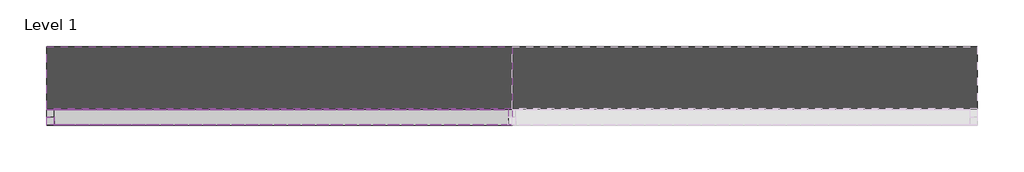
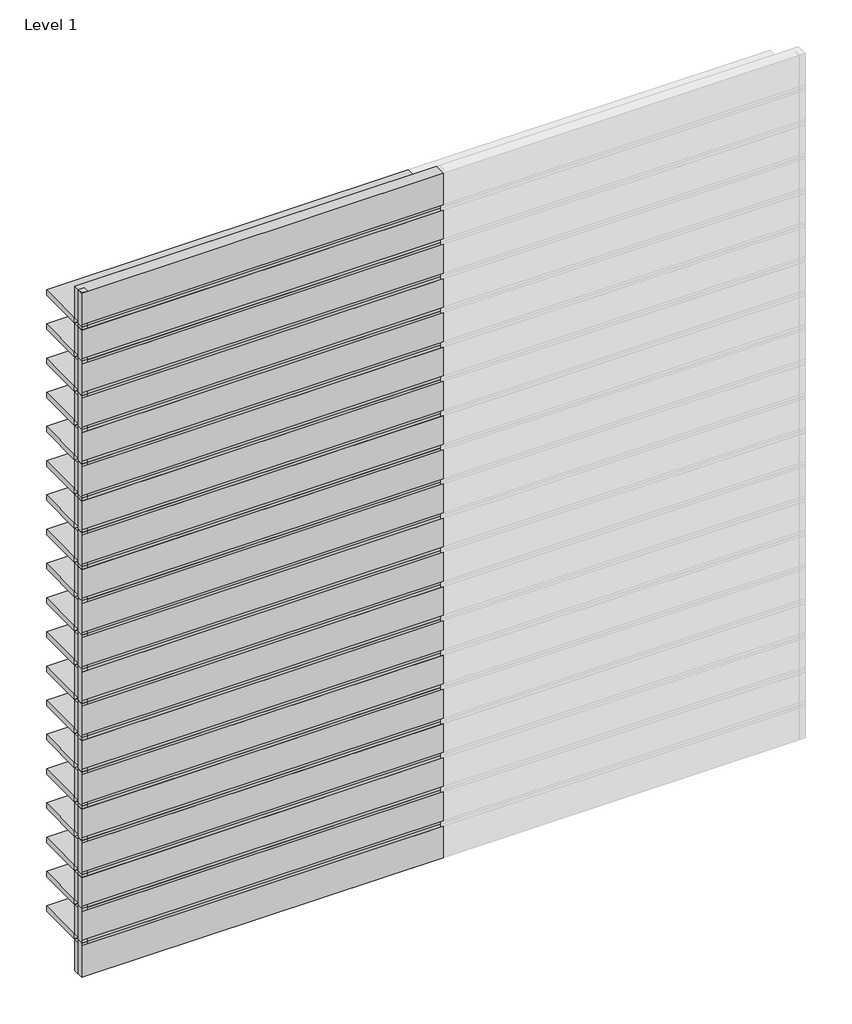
# One storey, part 1 of 2: 49 members, 40 plates.
"""IFC4 building model written with IfcOpenShell, lengths in millimetres."""

import ifcopenshell
import ifcopenshell.guid

model = None  # the IFC model being written
_history = None  # IfcOwnerHistory: only IFC2X3 demands one
_inside = {}  # id of a spatial element -> (the spatial element, [elements in it])
_under = {}  # id of a project, library or spatial element -> (it, [spatial elements below it])
_declared = {}  # id of a project -> (the project, [libraries it declares])
_typed = {}  # id of a type object -> (the type object, [elements of that type])
_made_of = {}  # id of a material, layer set ... -> (it, [elements and type objects made of it])


def new_model(schema):
    """Start an empty IFC model of exactly this schema.

    Asked for "IFC4X3", IfcOpenShell would pick the latest addendum, in which some entities
    have other attributes; the version numbers below select the first issue.
    IFC2X3 requires an IfcOwnerHistory on every rooted entity: one is made here for all.
    """
    global model, _history
    if schema == "IFC4X3":
        model = ifcopenshell.file(schema_version=(4, 3, 0, 0))
    else:
        model = ifcopenshell.file(schema=schema)
    _inside.clear()
    _under.clear()
    _declared.clear()
    _typed.clear()
    _made_of.clear()
    _history = None
    if model.schema == "IFC2X3":
        org = make("IfcOrganization", Name="unknown")
        user = make(
            "IfcPersonAndOrganization",
            ThePerson=make("IfcPerson", FamilyName="unknown"),
            TheOrganization=org,
        )
        app = make(
            "IfcApplication",
            ApplicationDeveloper=org,
            Version="unknown",
            ApplicationFullName="unknown",
            ApplicationIdentifier="unknown",
        )
        _history = make(
            "IfcOwnerHistory",
            OwningUser=user,
            OwningApplication=app,
            ChangeAction="ADDED",
            CreationDate=0,
        )
    return model


def make(cls, **values):
    """One entity of the class cls with the attributes given. An attribute that is None is left unset."""
    return model.create_entity(
        cls, **{name: value for name, value in values.items() if value is not None}
    )


def rooted(cls, **values):
    """An entity with a GlobalId (a new one), such as an element, a storey or a relation."""
    return make(cls, GlobalId=ifcopenshell.guid.new(), OwnerHistory=_history, **values)


def si_unit(unit_type, name, prefix=None):
    """IfcSIUnit, for example si_unit("LENGTHUNIT", "METRE", prefix="MILLI")."""
    return make("IfcSIUnit", UnitType=unit_type, Prefix=prefix, Name=name)


def assignment(units):
    """IfcUnitAssignment: the units of a project."""
    return None if units is None else make("IfcUnitAssignment", Units=units)


def point(xyz):
    """IfcCartesianPoint."""
    return None if xyz is None else make("IfcCartesianPoint", Coordinates=xyz)


def direction(xyz):
    """IfcDirection."""
    return None if xyz is None else make("IfcDirection", DirectionRatios=xyz)


def frame(location, z_axis=None, x_axis=None):
    """IfcAxis2Placement3D, a coordinate frame: its origin and axes. An axis left out is left unset."""
    return make(
        "IfcAxis2Placement3D",
        Location=point(location),
        Axis=direction(z_axis),
        RefDirection=direction(x_axis),
    )


def origin():
    """The frame at (0, 0, 0) with its axes left unset."""
    return frame((0.0, 0.0, 0.0))


def origin_with_axes():
    """The frame at (0, 0, 0) with the z axis (0, 0, 1) and the x axis (1, 0, 0) written out."""
    return frame((0.0, 0.0, 0.0), z_axis=(0.0, 0.0, 1.0), x_axis=(1.0, 0.0, 0.0))


def place(relative_to, where):
    """IfcLocalPlacement: puts the frame where relative to a parent placement (None: the world)."""
    return make(
        "IfcLocalPlacement", PlacementRelTo=relative_to, RelativePlacement=where
    )


def context(
    kind, dimensions, precision=None, world=None, true_north=None, identifier=None
):
    """IfcGeometricRepresentationContext, for example the 3D "Model" context."""
    return make(
        "IfcGeometricRepresentationContext",
        ContextIdentifier=identifier,
        ContextType=kind,
        CoordinateSpaceDimension=dimensions,
        Precision=precision,
        WorldCoordinateSystem=world,
        TrueNorth=true_north,
    )


def project(units=None, contexts=None):
    """IfcProject with its units and contexts."""
    return rooted(
        "IfcProject",
        Name="project",
        RepresentationContexts=contexts,
        UnitsInContext=assignment(units),
    )


def spatial(cls, under=None, at=None, **own):
    """A site, building, storey or space (cls), placed at a placement, below another one or the project."""
    s = rooted(cls, ObjectPlacement=at, **own)
    if under is not None:
        _under.setdefault(under.id(), (under, []))[1].append(s)
    return s


def polyline(points):
    """IfcPolyline through the points."""
    return make("IfcPolyline", Points=[point(p) for p in points])


def outline(outer, holes=None, kind="AREA"):
    """IfcArbitraryClosedProfileDef: a profile drawn as a closed curve; with holes, ...WithVoids."""
    if holes is None:
        return make("IfcArbitraryClosedProfileDef", ProfileType=kind, OuterCurve=outer)
    return make(
        "IfcArbitraryProfileDefWithVoids",
        ProfileType=kind,
        OuterCurve=outer,
        InnerCurves=holes,
    )


def extrude(swept, where, along, depth):
    """IfcExtrudedAreaSolid: the profile swept, set in the frame where, extruded along a direction by depth."""
    return make(
        "IfcExtrudedAreaSolid",
        SweptArea=swept,
        Position=where,
        ExtrudedDirection=direction(along),
        Depth=depth,
    )


def shape(context_of_items, identifier, shape_type, items):
    """IfcShapeRepresentation: the items that make up one representation, for example the "Body"."""
    return make(
        "IfcShapeRepresentation",
        ContextOfItems=context_of_items,
        RepresentationIdentifier=identifier,
        RepresentationType=shape_type,
        Items=items,
    )


def source(mapping_origin, context_of_items, identifier, shape_type, items):
    """IfcRepresentationMap: a shape defined once, which mapped items show again and again."""
    return make(
        "IfcRepresentationMap",
        MappingOrigin=mapping_origin,
        MappedRepresentation=shape(context_of_items, identifier, shape_type, items),
    )


def transform(
    local_origin,
    x_axis=None,
    y_axis=None,
    z_axis=None,
    scale=None,
    scale2=None,
    scale3=None,
    uniform=True,
):
    """IfcCartesianTransformationOperator3D, or its non-uniform kind. x_axis, y_axis, z_axis: its Axis1, 2, 3."""
    if uniform:
        return make(
            "IfcCartesianTransformationOperator3D",
            Axis1=direction(x_axis),
            Axis2=direction(y_axis),
            LocalOrigin=point(local_origin),
            Scale=scale,
            Axis3=direction(z_axis),
        )
    return make(
        "IfcCartesianTransformationOperator3DnonUniform",
        Axis1=direction(x_axis),
        Axis2=direction(y_axis),
        LocalOrigin=point(local_origin),
        Scale=scale,
        Axis3=direction(z_axis),
        Scale2=scale2,
        Scale3=scale3,
    )


def mapped(mapping_source, mapping_target):
    """IfcMappedItem: shows the shape of a source again, moved by a transform."""
    return make(
        "IfcMappedItem", MappingSource=mapping_source, MappingTarget=mapping_target
    )


def made_of(thing, what):
    """Note that an element or type object is made of a material, layer set ...; save() writes the relation."""
    if what is not None:
        _made_of.setdefault(what.id(), (what, []))[1].append(thing)
    return thing


def element(
    cls,
    number,
    at=None,
    inside=None,
    cuts=None,
    type_object=None,
    material=None,
    context=None,
    identifier="Body",
    shape_type=None,
    held_by="IfcProductDefinitionShape",
    body=None,
    shapes=None,
    **own,
):
    """One element of the class cls, such as IfcWall. Its Tag is "e" and its number.

    at: its placement. inside: the storey or other place that contains it. cuts: it is an
    opening in that element (IfcRelVoidsElement). A single representation is given by context,
    identifier, shape_type and body (its items); several are given by shapes. held_by: the class
    of the entity that holds the representations. save() writes the other relations.
    """
    e = rooted(cls, Tag="e%d" % number, ObjectPlacement=at, **own)
    if body is not None:
        shapes = [shape(context, identifier, shape_type, body)]
    if shapes is not None:
        e.Representation = make(held_by, Representations=shapes)
    if inside is not None:
        _inside.setdefault(inside.id(), (inside, []))[1].append(e)
    if cuts is not None:
        rooted(
            "IfcRelVoidsElement", RelatingBuildingElement=cuts, RelatedOpeningElement=e
        )
    if type_object is not None:
        _typed.setdefault(type_object.id(), (type_object, []))[1].append(e)
    return made_of(e, material)


def aggregate(whole, parts):
    """IfcRelAggregates: a whole, such as a stair, and the parts it consists of."""
    return rooted("IfcRelAggregates", RelatingObject=whole, RelatedObjects=parts)


def save(model, path):
    """Write the relations noted so far, then the file.

    IfcRelAggregates (storeys below a building ...), IfcRelContainedInSpatialStructure (elements
    in a storey), IfcRelDefinesByType, IfcRelAssociatesMaterial and IfcRelDeclares: one each for
    every whole, place, type object, material and project.
    """
    for whole, parts in _under.values():
        aggregate(whole, parts)
    for where, things in _inside.values():
        rooted(
            "IfcRelContainedInSpatialStructure",
            RelatedElements=things,
            RelatingStructure=where,
        )
    for kind, things in _typed.values():
        rooted("IfcRelDefinesByType", RelatedObjects=things, RelatingType=kind)
    for what, things in _made_of.values():
        rooted("IfcRelAssociatesMaterial", RelatedObjects=things, RelatingMaterial=what)
    for by, libraries in _declared.values():
        rooted("IfcRelDeclares", RelatingContext=by, RelatedDefinitions=libraries)
    model.write(path)


def rectangular_mullion_e1254653(model_context):
    return source(origin(), model_context, "Body", "SweptSolid", [
        extrude(outline(polyline([(-24.0, 55.0), (-24.0, 455.0), (24.0, 455.0), (24.0, 55.0), (-24.0, 55.0)])), frame((0.0, 0.0, -3000.0), z_axis=(0.0, 0.0, 1.0), x_axis=(1.0, 0.0, 0.0)), (0.0, 0.0, 1.0), 3000.0),
    ])


def rectangular_mullion_bcb65166(model_context):
    return source(origin(), model_context, "Body", "SweptSolid", [
        extrude(outline(polyline([(0.0, 1.0), (0.0, -49.0), (-50.0, -49.0), (-50.0, 1.0), (0.0, 1.0)])), frame((0.0, 0.0, -300.0), z_axis=(0.0, 0.0, 1.0), x_axis=(1.0, 0.0, 0.0)), (0.0, 0.0, 1.0), 300.0),
    ])


def empty_system_panel_empty_3beb369f(model_context):
    return source(origin(), model_context, "Body", "SweptSolid", [
        extrude(outline(polyline([(1500.0, -50.0), (-1500.0, -50.0), (-1500.0, 50.0), (1500.0, 50.0), (1500.0, -50.0)])), origin_with_axes(), (0.0, 0.0, 1.0), 276.0),
    ])


def empty_system_panel_empty_3b3bfbe1(model_context):
    return source(origin(), model_context, "Body", "SweptSolid", [
        extrude(outline(polyline([(1500.0, -50.0), (-1500.0, -50.0), (-1500.0, 50.0), (1500.0, 50.0), (1500.0, -50.0)])), origin_with_axes(), (0.0, 0.0, 1.0), 252.0),
    ])


def empty_system_panel_empty_080f249c(model_context):
    return source(origin(), model_context, "Body", "SweptSolid", [
        extrude(outline(polyline([(1462.5, -50.0), (-1462.5, -50.0), (-1462.5, 50.0), (1462.5, 50.0), (1462.5, -50.0)])), origin_with_axes(), (0.0, 0.0, 1.0), 300.0),
    ])


model = new_model("IFC4")

# Units and contexts
model_context = context("Model", 3, world=origin())
ifc_project = project(units=[si_unit("LENGTHUNIT", "METRE", prefix="MILLI")], contexts=[model_context])

# Site, building, storey
site = spatial("IfcSite", under=ifc_project)
building = spatial("IfcBuilding", under=site)
storey = spatial("IfcBuildingStorey", under=building, Name="Level 1", Elevation=0.0)

# Members
placement = place(None, origin())
rectangular_mullion_shape = rectangular_mullion_e1254653(model_context)
element("IfcMember", 1, ObjectType="Rectangular Mullion : RSen_21_CWM_blade - cubic 400 - 0°_gen_duco projects", at=placement, inside=storey, context=model_context, shape_type="MappedRepresentation", body=[
    mapped(rectangular_mullion_shape, transform((3000.0, 3000.0, 300.0), x_axis=(0.0, 0.0, 1.0), y_axis=(0.0, 1.0, 0.0), z_axis=(-1.0, 0.0, 0.0))),
])
element("IfcMember", 2, ObjectType="Rectangular Mullion : RSen_21_CWM_blade - cubic 400 - 0°_gen_duco projects", at=placement, inside=storey, context=model_context, shape_type="MappedRepresentation", body=[
    mapped(rectangular_mullion_shape, transform((3000.0, 3000.0, 600.0), x_axis=(0.0, 0.0, 1.0), y_axis=(0.0, 1.0, 0.0), z_axis=(-1.0, 0.0, 0.0))),
])
element("IfcMember", 3, ObjectType="Rectangular Mullion : RSen_21_CWM_blade - cubic 400 - 0°_gen_duco projects", at=placement, inside=storey, context=model_context, shape_type="MappedRepresentation", body=[
    mapped(rectangular_mullion_shape, transform((3000.0, 3000.0, 900.0), x_axis=(0.0, 0.0, 1.0), y_axis=(0.0, 1.0, 0.0), z_axis=(-1.0, 0.0, 0.0))),
])
element("IfcMember", 4, ObjectType="Rectangular Mullion : RSen_21_CWM_blade - cubic 400 - 0°_gen_duco projects", at=placement, inside=storey, context=model_context, shape_type="MappedRepresentation", body=[
    mapped(rectangular_mullion_shape, transform((3000.0, 3000.0, 1200.0), x_axis=(0.0, 0.0, 1.0), y_axis=(0.0, 1.0, 0.0), z_axis=(-1.0, 0.0, 0.0))),
])
element("IfcMember", 5, ObjectType="Rectangular Mullion : RSen_21_CWM_blade - cubic 400 - 0°_gen_duco projects", at=placement, inside=storey, context=model_context, shape_type="MappedRepresentation", body=[
    mapped(rectangular_mullion_shape, transform((3000.0, 3000.0, 1500.0), x_axis=(0.0, 0.0, 1.0), y_axis=(0.0, 1.0, 0.0), z_axis=(-1.0, 0.0, 0.0))),
])
element("IfcMember", 6, ObjectType="Rectangular Mullion : RSen_21_CWM_blade - cubic 400 - 0°_gen_duco projects", at=placement, inside=storey, context=model_context, shape_type="MappedRepresentation", body=[
    mapped(rectangular_mullion_shape, transform((3000.0, 3000.0, 1800.0), x_axis=(0.0, 0.0, 1.0), y_axis=(0.0, 1.0, 0.0), z_axis=(-1.0, 0.0, 0.0))),
])
element("IfcMember", 7, ObjectType="Rectangular Mullion : RSen_21_CWM_blade - cubic 400 - 0°_gen_duco projects", at=placement, inside=storey, context=model_context, shape_type="MappedRepresentation", body=[
    mapped(rectangular_mullion_shape, transform((3000.0, 3000.0, 2100.0), x_axis=(0.0, 0.0, 1.0), y_axis=(0.0, 1.0, 0.0), z_axis=(-1.0, 0.0, 0.0))),
])
element("IfcMember", 8, ObjectType="Rectangular Mullion : RSen_21_CWM_blade - cubic 400 - 0°_gen_duco projects", at=placement, inside=storey, context=model_context, shape_type="MappedRepresentation", body=[
    mapped(rectangular_mullion_shape, transform((3000.0, 3000.0, 2400.0), x_axis=(0.0, 0.0, 1.0), y_axis=(0.0, 1.0, 0.0), z_axis=(-1.0, 0.0, 0.0))),
])
element("IfcMember", 9, ObjectType="Rectangular Mullion : RSen_21_CWM_blade - cubic 400 - 0°_gen_duco projects", at=placement, inside=storey, context=model_context, shape_type="MappedRepresentation", body=[
    mapped(rectangular_mullion_shape, transform((3000.0, 3000.0, 2700.0), x_axis=(0.0, 0.0, 1.0), y_axis=(0.0, 1.0, 0.0), z_axis=(-1.0, 0.0, 0.0))),
])
element("IfcMember", 10, ObjectType="Rectangular Mullion : RSen_21_CWM_blade - cubic 400 - 0°_gen_duco projects", at=placement, inside=storey, context=model_context, shape_type="MappedRepresentation", body=[
    mapped(rectangular_mullion_shape, transform((3000.0, 3000.0, 3000.0), x_axis=(0.0, 0.0, 1.0), y_axis=(0.0, 1.0, 0.0), z_axis=(-1.0, 0.0, 0.0))),
])
element("IfcMember", 11, ObjectType="Rectangular Mullion : RSen_21_CWM_blade - cubic 400 - 0°_gen_duco projects", at=placement, inside=storey, context=model_context, shape_type="MappedRepresentation", body=[
    mapped(rectangular_mullion_shape, transform((0.0, 3000.0, 300.0), x_axis=(0.0, 0.0, 1.0), y_axis=(0.0, 1.0, 0.0), z_axis=(-1.0, 0.0, 0.0))),
])
element("IfcMember", 12, ObjectType="Rectangular Mullion : RSen_21_CWM_blade - cubic 400 - 0°_gen_duco projects", at=placement, inside=storey, context=model_context, shape_type="MappedRepresentation", body=[
    mapped(rectangular_mullion_shape, transform((0.0, 3000.0, 600.0), x_axis=(0.0, 0.0, 1.0), y_axis=(0.0, 1.0, 0.0), z_axis=(-1.0, 0.0, 0.0))),
])
element("IfcMember", 13, ObjectType="Rectangular Mullion : RSen_21_CWM_blade - cubic 400 - 0°_gen_duco projects", at=placement, inside=storey, context=model_context, shape_type="MappedRepresentation", body=[
    mapped(rectangular_mullion_shape, transform((0.0, 3000.0, 900.0), x_axis=(0.0, 0.0, 1.0), y_axis=(0.0, 1.0, 0.0), z_axis=(-1.0, 0.0, 0.0))),
])
element("IfcMember", 14, ObjectType="Rectangular Mullion : RSen_21_CWM_blade - cubic 400 - 0°_gen_duco projects", at=placement, inside=storey, context=model_context, shape_type="MappedRepresentation", body=[
    mapped(rectangular_mullion_shape, transform((0.0, 3000.0, 1200.0), x_axis=(0.0, 0.0, 1.0), y_axis=(0.0, 1.0, 0.0), z_axis=(-1.0, 0.0, 0.0))),
])
element("IfcMember", 15, ObjectType="Rectangular Mullion : RSen_21_CWM_blade - cubic 400 - 0°_gen_duco projects", at=placement, inside=storey, context=model_context, shape_type="MappedRepresentation", body=[
    mapped(rectangular_mullion_shape, transform((0.0, 3000.0, 1500.0), x_axis=(0.0, 0.0, 1.0), y_axis=(0.0, 1.0, 0.0), z_axis=(-1.0, 0.0, 0.0))),
])
element("IfcMember", 16, ObjectType="Rectangular Mullion : RSen_21_CWM_blade - cubic 400 - 0°_gen_duco projects", at=placement, inside=storey, context=model_context, shape_type="MappedRepresentation", body=[
    mapped(rectangular_mullion_shape, transform((0.0, 3000.0, 1800.0), x_axis=(0.0, 0.0, 1.0), y_axis=(0.0, 1.0, 0.0), z_axis=(-1.0, 0.0, 0.0))),
])
element("IfcMember", 17, ObjectType="Rectangular Mullion : RSen_21_CWM_blade - cubic 400 - 0°_gen_duco projects", at=placement, inside=storey, context=model_context, shape_type="MappedRepresentation", body=[
    mapped(rectangular_mullion_shape, transform((0.0, 3000.0, 2100.0), x_axis=(0.0, 0.0, 1.0), y_axis=(0.0, 1.0, 0.0), z_axis=(-1.0, 0.0, 0.0))),
])
element("IfcMember", 18, ObjectType="Rectangular Mullion : RSen_21_CWM_blade - cubic 400 - 0°_gen_duco projects", at=placement, inside=storey, context=model_context, shape_type="MappedRepresentation", body=[
    mapped(rectangular_mullion_shape, transform((0.0, 3000.0, 2400.0), x_axis=(0.0, 0.0, 1.0), y_axis=(0.0, 1.0, 0.0), z_axis=(-1.0, 0.0, 0.0))),
])
element("IfcMember", 19, ObjectType="Rectangular Mullion : RSen_21_CWM_blade - cubic 400 - 0°_gen_duco projects", at=placement, inside=storey, context=model_context, shape_type="MappedRepresentation", body=[
    mapped(rectangular_mullion_shape, transform((0.0, 3000.0, 2700.0), x_axis=(0.0, 0.0, 1.0), y_axis=(0.0, 1.0, 0.0), z_axis=(-1.0, 0.0, 0.0))),
])
element("IfcMember", 20, ObjectType="Rectangular Mullion : RSen_21_CWM_blade - cubic 400 - 0°_gen_duco projects", at=placement, inside=storey, context=model_context, shape_type="MappedRepresentation", body=[
    mapped(rectangular_mullion_shape, transform((0.0, 3000.0, 3000.0), x_axis=(0.0, 0.0, 1.0), y_axis=(0.0, 1.0, 0.0), z_axis=(-1.0, 0.0, 0.0))),
])
element("IfcMember", 21, ObjectType="Rectangular Mullion : RSen_21_CWM_blade - cubic 400 - 0°_gen_duco projects", at=placement, inside=storey, context=model_context, shape_type="MappedRepresentation", body=[
    mapped(rectangular_mullion_shape, transform((0.0, 3000.0, 3300.0), x_axis=(0.0, 0.0, 1.0), y_axis=(0.0, 1.0, 0.0), z_axis=(-1.0, 0.0, 0.0))),
])
element("IfcMember", 22, ObjectType="Rectangular Mullion : RSen_21_CWM_blade - cubic 400 - 0°_gen_duco projects", at=placement, inside=storey, context=model_context, shape_type="MappedRepresentation", body=[
    mapped(rectangular_mullion_shape, transform((0.0, 3000.0, 3600.0), x_axis=(0.0, 0.0, 1.0), y_axis=(0.0, 1.0, 0.0), z_axis=(-1.0, 0.0, 0.0))),
])
element("IfcMember", 23, ObjectType="Rectangular Mullion : RSen_21_CWM_blade - cubic 400 - 0°_gen_duco projects", at=placement, inside=storey, context=model_context, shape_type="MappedRepresentation", body=[
    mapped(rectangular_mullion_shape, transform((0.0, 3000.0, 3900.0), x_axis=(0.0, 0.0, 1.0), y_axis=(0.0, 1.0, 0.0), z_axis=(-1.0, 0.0, 0.0))),
])
element("IfcMember", 24, ObjectType="Rectangular Mullion : RSen_21_CWM_blade - cubic 400 - 0°_gen_duco projects", at=placement, inside=storey, context=model_context, shape_type="MappedRepresentation", body=[
    mapped(rectangular_mullion_shape, transform((0.0, 3000.0, 4200.0), x_axis=(0.0, 0.0, 1.0), y_axis=(0.0, 1.0, 0.0), z_axis=(-1.0, 0.0, 0.0))),
])
element("IfcMember", 25, ObjectType="Rectangular Mullion : RSen_21_CWM_blade - cubic 400 - 0°_gen_duco projects", at=placement, inside=storey, context=model_context, shape_type="MappedRepresentation", body=[
    mapped(rectangular_mullion_shape, transform((0.0, 3000.0, 4500.0), x_axis=(0.0, 0.0, 1.0), y_axis=(0.0, 1.0, 0.0), z_axis=(-1.0, 0.0, 0.0))),
])
element("IfcMember", 26, ObjectType="Rectangular Mullion : RSen_21_CWM_blade - cubic 400 - 0°_gen_duco projects", at=placement, inside=storey, context=model_context, shape_type="MappedRepresentation", body=[
    mapped(rectangular_mullion_shape, transform((0.0, 3000.0, 4800.0), x_axis=(0.0, 0.0, 1.0), y_axis=(0.0, 1.0, 0.0), z_axis=(-1.0, 0.0, 0.0))),
])
element("IfcMember", 27, ObjectType="Rectangular Mullion : RSen_21_CWM_blade - cubic 400 - 0°_gen_duco projects", at=placement, inside=storey, context=model_context, shape_type="MappedRepresentation", body=[
    mapped(rectangular_mullion_shape, transform((0.0, 3000.0, 5100.0), x_axis=(0.0, 0.0, 1.0), y_axis=(0.0, 1.0, 0.0), z_axis=(-1.0, 0.0, 0.0))),
])
element("IfcMember", 28, ObjectType="Rectangular Mullion : RSen_21_CWM_blade - cubic 400 - 0°_gen_duco projects", at=placement, inside=storey, context=model_context, shape_type="MappedRepresentation", body=[
    mapped(rectangular_mullion_shape, transform((0.0, 3000.0, 5400.0), x_axis=(0.0, 0.0, 1.0), y_axis=(0.0, 1.0, 0.0), z_axis=(-1.0, 0.0, 0.0))),
])
element("IfcMember", 29, ObjectType="Rectangular Mullion : RSen_21_CWM_blade - cubic 400 - 0°_gen_duco projects", at=placement, inside=storey, context=model_context, shape_type="MappedRepresentation", body=[
    mapped(rectangular_mullion_shape, transform((0.0, 3000.0, 5700.0), x_axis=(0.0, 0.0, 1.0), y_axis=(0.0, 1.0, 0.0), z_axis=(-1.0, 0.0, 0.0))),
])
rectangular_mullion_2_shape = rectangular_mullion_bcb65166(model_context)
element("IfcMember", 30, ObjectType="Rectangular Mullion : RSen_21_CWM_support profile 50x50 - left_gen_duco projects", at=placement, inside=storey, context=model_context, shape_type="MappedRepresentation", body=[
    mapped(rectangular_mullion_2_shape, transform((0.0, 3000.0, 0.0), x_axis=(-1.0, 0.0, 0.0), y_axis=(0.0, 1.0, 0.0), z_axis=(0.0, 0.0, -1.0))),
])
element("IfcMember", 31, ObjectType="Rectangular Mullion : RSen_21_CWM_support profile 50x50 - left_gen_duco projects", at=placement, inside=storey, context=model_context, shape_type="MappedRepresentation", body=[
    mapped(rectangular_mullion_2_shape, transform((0.0, 3000.0, 300.0), x_axis=(-1.0, 0.0, 0.0), y_axis=(0.0, 1.0, 0.0), z_axis=(0.0, 0.0, -1.0))),
])
element("IfcMember", 32, ObjectType="Rectangular Mullion : RSen_21_CWM_support profile 50x50 - left_gen_duco projects", at=placement, inside=storey, context=model_context, shape_type="MappedRepresentation", body=[
    mapped(rectangular_mullion_2_shape, transform((0.0, 3000.0, 600.0), x_axis=(-1.0, 0.0, 0.0), y_axis=(0.0, 1.0, 0.0), z_axis=(0.0, 0.0, -1.0))),
])
element("IfcMember", 33, ObjectType="Rectangular Mullion : RSen_21_CWM_support profile 50x50 - left_gen_duco projects", at=placement, inside=storey, context=model_context, shape_type="MappedRepresentation", body=[
    mapped(rectangular_mullion_2_shape, transform((0.0, 3000.0, 900.0), x_axis=(-1.0, 0.0, 0.0), y_axis=(0.0, 1.0, 0.0), z_axis=(0.0, 0.0, -1.0))),
])
element("IfcMember", 34, ObjectType="Rectangular Mullion : RSen_21_CWM_support profile 50x50 - left_gen_duco projects", at=placement, inside=storey, context=model_context, shape_type="MappedRepresentation", body=[
    mapped(rectangular_mullion_2_shape, transform((0.0, 3000.0, 1200.0), x_axis=(-1.0, 0.0, 0.0), y_axis=(0.0, 1.0, 0.0), z_axis=(0.0, 0.0, -1.0))),
])
element("IfcMember", 35, ObjectType="Rectangular Mullion : RSen_21_CWM_support profile 50x50 - left_gen_duco projects", at=placement, inside=storey, context=model_context, shape_type="MappedRepresentation", body=[
    mapped(rectangular_mullion_2_shape, transform((0.0, 3000.0, 1500.0), x_axis=(-1.0, 0.0, 0.0), y_axis=(0.0, 1.0, 0.0), z_axis=(0.0, 0.0, -1.0))),
])
element("IfcMember", 36, ObjectType="Rectangular Mullion : RSen_21_CWM_support profile 50x50 - left_gen_duco projects", at=placement, inside=storey, context=model_context, shape_type="MappedRepresentation", body=[
    mapped(rectangular_mullion_2_shape, transform((0.0, 3000.0, 1800.0), x_axis=(-1.0, 0.0, 0.0), y_axis=(0.0, 1.0, 0.0), z_axis=(0.0, 0.0, -1.0))),
])
element("IfcMember", 37, ObjectType="Rectangular Mullion : RSen_21_CWM_support profile 50x50 - left_gen_duco projects", at=placement, inside=storey, context=model_context, shape_type="MappedRepresentation", body=[
    mapped(rectangular_mullion_2_shape, transform((0.0, 3000.0, 2100.0), x_axis=(-1.0, 0.0, 0.0), y_axis=(0.0, 1.0, 0.0), z_axis=(0.0, 0.0, -1.0))),
])
element("IfcMember", 38, ObjectType="Rectangular Mullion : RSen_21_CWM_support profile 50x50 - left_gen_duco projects", at=placement, inside=storey, context=model_context, shape_type="MappedRepresentation", body=[
    mapped(rectangular_mullion_2_shape, transform((0.0, 3000.0, 2400.0), x_axis=(-1.0, 0.0, 0.0), y_axis=(0.0, 1.0, 0.0), z_axis=(0.0, 0.0, -1.0))),
])
element("IfcMember", 39, ObjectType="Rectangular Mullion : RSen_21_CWM_support profile 50x50 - left_gen_duco projects", at=placement, inside=storey, context=model_context, shape_type="MappedRepresentation", body=[
    mapped(rectangular_mullion_2_shape, transform((0.0, 3000.0, 2700.0), x_axis=(-1.0, 0.0, 0.0), y_axis=(0.0, 1.0, 0.0), z_axis=(0.0, 0.0, -1.0))),
])
element("IfcMember", 40, ObjectType="Rectangular Mullion : RSen_21_CWM_support profile 50x50 - left_gen_duco projects", at=placement, inside=storey, context=model_context, shape_type="MappedRepresentation", body=[
    mapped(rectangular_mullion_2_shape, transform((0.0, 3000.0, 3000.0), x_axis=(-1.0, 0.0, 0.0), y_axis=(0.0, 1.0, 0.0), z_axis=(0.0, 0.0, -1.0))),
])
element("IfcMember", 41, ObjectType="Rectangular Mullion : RSen_21_CWM_support profile 50x50 - left_gen_duco projects", at=placement, inside=storey, context=model_context, shape_type="MappedRepresentation", body=[
    mapped(rectangular_mullion_2_shape, transform((0.0, 3000.0, 3300.0), x_axis=(-1.0, 0.0, 0.0), y_axis=(0.0, 1.0, 0.0), z_axis=(0.0, 0.0, -1.0))),
])
element("IfcMember", 42, ObjectType="Rectangular Mullion : RSen_21_CWM_support profile 50x50 - left_gen_duco projects", at=placement, inside=storey, context=model_context, shape_type="MappedRepresentation", body=[
    mapped(rectangular_mullion_2_shape, transform((0.0, 3000.0, 3600.0), x_axis=(-1.0, 0.0, 0.0), y_axis=(0.0, 1.0, 0.0), z_axis=(0.0, 0.0, -1.0))),
])
element("IfcMember", 43, ObjectType="Rectangular Mullion : RSen_21_CWM_support profile 50x50 - left_gen_duco projects", at=placement, inside=storey, context=model_context, shape_type="MappedRepresentation", body=[
    mapped(rectangular_mullion_2_shape, transform((0.0, 3000.0, 3900.0), x_axis=(-1.0, 0.0, 0.0), y_axis=(0.0, 1.0, 0.0), z_axis=(0.0, 0.0, -1.0))),
])
element("IfcMember", 44, ObjectType="Rectangular Mullion : RSen_21_CWM_support profile 50x50 - left_gen_duco projects", at=placement, inside=storey, context=model_context, shape_type="MappedRepresentation", body=[
    mapped(rectangular_mullion_2_shape, transform((0.0, 3000.0, 4200.0), x_axis=(-1.0, 0.0, 0.0), y_axis=(0.0, 1.0, 0.0), z_axis=(0.0, 0.0, -1.0))),
])
element("IfcMember", 45, ObjectType="Rectangular Mullion : RSen_21_CWM_support profile 50x50 - left_gen_duco projects", at=placement, inside=storey, context=model_context, shape_type="MappedRepresentation", body=[
    mapped(rectangular_mullion_2_shape, transform((0.0, 3000.0, 4500.0), x_axis=(-1.0, 0.0, 0.0), y_axis=(0.0, 1.0, 0.0), z_axis=(0.0, 0.0, -1.0))),
])
element("IfcMember", 46, ObjectType="Rectangular Mullion : RSen_21_CWM_support profile 50x50 - left_gen_duco projects", at=placement, inside=storey, context=model_context, shape_type="MappedRepresentation", body=[
    mapped(rectangular_mullion_2_shape, transform((0.0, 3000.0, 4800.0), x_axis=(-1.0, 0.0, 0.0), y_axis=(0.0, 1.0, 0.0), z_axis=(0.0, 0.0, -1.0))),
])
element("IfcMember", 47, ObjectType="Rectangular Mullion : RSen_21_CWM_support profile 50x50 - left_gen_duco projects", at=placement, inside=storey, context=model_context, shape_type="MappedRepresentation", body=[
    mapped(rectangular_mullion_2_shape, transform((0.0, 3000.0, 5100.0), x_axis=(-1.0, 0.0, 0.0), y_axis=(0.0, 1.0, 0.0), z_axis=(0.0, 0.0, -1.0))),
])
element("IfcMember", 48, ObjectType="Rectangular Mullion : RSen_21_CWM_support profile 50x50 - left_gen_duco projects", at=placement, inside=storey, context=model_context, shape_type="MappedRepresentation", body=[
    mapped(rectangular_mullion_2_shape, transform((0.0, 3000.0, 5400.0), x_axis=(-1.0, 0.0, 0.0), y_axis=(0.0, 1.0, 0.0), z_axis=(0.0, 0.0, -1.0))),
])
element("IfcMember", 49, ObjectType="Rectangular Mullion : RSen_21_CWM_support profile 50x50 - left_gen_duco projects", at=placement, inside=storey, context=model_context, shape_type="MappedRepresentation", body=[
    mapped(rectangular_mullion_2_shape, transform((0.0, 3000.0, 5700.0), x_axis=(-1.0, 0.0, 0.0), y_axis=(0.0, 1.0, 0.0), z_axis=(0.0, 0.0, -1.0))),
])

# Plates
empty_system_panel_empty_shape = empty_system_panel_empty_3beb369f(model_context)
element("IfcPlate", 50, ObjectType="Empty System Panel : Empty", at=placement, inside=storey, context=model_context, shape_type="MappedRepresentation", body=[
    mapped(empty_system_panel_empty_shape, transform((1500.0, 3000.0, 0.0), x_axis=(-1.0, 0.0, 0.0), y_axis=(0.0, -1.0, 0.0), z_axis=(0.0, 0.0, 1.0))),
])
element("IfcPlate", 51, ObjectType="Empty System Panel : Empty", at=placement, inside=storey, context=model_context, shape_type="MappedRepresentation", body=[
    mapped(empty_system_panel_empty_shape, transform((1500.0, 3000.0, 5724.0), x_axis=(-1.0, 0.0, 0.0), y_axis=(0.0, -1.0, 0.0), z_axis=(0.0, 0.0, 1.0))),
])
empty_system_panel_empty_2_shape = empty_system_panel_empty_3b3bfbe1(model_context)
element("IfcPlate", 52, ObjectType="Empty System Panel : Empty", at=placement, inside=storey, context=model_context, shape_type="MappedRepresentation", body=[
    mapped(empty_system_panel_empty_2_shape, transform((1500.0, 3000.0, 324.0), x_axis=(-1.0, 0.0, 0.0), y_axis=(0.0, -1.0, 0.0), z_axis=(0.0, 0.0, 1.0))),
])
element("IfcPlate", 53, ObjectType="Empty System Panel : Empty", at=placement, inside=storey, context=model_context, shape_type="MappedRepresentation", body=[
    mapped(empty_system_panel_empty_2_shape, transform((1500.0, 3000.0, 624.0), x_axis=(-1.0, 0.0, 0.0), y_axis=(0.0, -1.0, 0.0), z_axis=(0.0, 0.0, 1.0))),
])
element("IfcPlate", 54, ObjectType="Empty System Panel : Empty", at=placement, inside=storey, context=model_context, shape_type="MappedRepresentation", body=[
    mapped(empty_system_panel_empty_2_shape, transform((1500.0, 3000.0, 924.0), x_axis=(-1.0, 0.0, 0.0), y_axis=(0.0, -1.0, 0.0), z_axis=(0.0, 0.0, 1.0))),
])
element("IfcPlate", 55, ObjectType="Empty System Panel : Empty", at=placement, inside=storey, context=model_context, shape_type="MappedRepresentation", body=[
    mapped(empty_system_panel_empty_2_shape, transform((1500.0, 3000.0, 1224.0), x_axis=(-1.0, 0.0, 0.0), y_axis=(0.0, -1.0, 0.0), z_axis=(0.0, 0.0, 1.0))),
])
element("IfcPlate", 56, ObjectType="Empty System Panel : Empty", at=placement, inside=storey, context=model_context, shape_type="MappedRepresentation", body=[
    mapped(empty_system_panel_empty_2_shape, transform((1500.0, 3000.0, 1524.0), x_axis=(-1.0, 0.0, 0.0), y_axis=(0.0, -1.0, 0.0), z_axis=(0.0, 0.0, 1.0))),
])
element("IfcPlate", 57, ObjectType="Empty System Panel : Empty", at=placement, inside=storey, context=model_context, shape_type="MappedRepresentation", body=[
    mapped(empty_system_panel_empty_2_shape, transform((1500.0, 3000.0, 1824.0), x_axis=(-1.0, 0.0, 0.0), y_axis=(0.0, -1.0, 0.0), z_axis=(0.0, 0.0, 1.0))),
])
element("IfcPlate", 58, ObjectType="Empty System Panel : Empty", at=placement, inside=storey, context=model_context, shape_type="MappedRepresentation", body=[
    mapped(empty_system_panel_empty_2_shape, transform((1500.0, 3000.0, 2124.0), x_axis=(-1.0, 0.0, 0.0), y_axis=(0.0, -1.0, 0.0), z_axis=(0.0, 0.0, 1.0))),
])
element("IfcPlate", 59, ObjectType="Empty System Panel : Empty", at=placement, inside=storey, context=model_context, shape_type="MappedRepresentation", body=[
    mapped(empty_system_panel_empty_2_shape, transform((1500.0, 3000.0, 2424.0), x_axis=(-1.0, 0.0, 0.0), y_axis=(0.0, -1.0, 0.0), z_axis=(0.0, 0.0, 1.0))),
])
element("IfcPlate", 60, ObjectType="Empty System Panel : Empty", at=placement, inside=storey, context=model_context, shape_type="MappedRepresentation", body=[
    mapped(empty_system_panel_empty_2_shape, transform((1500.0, 3000.0, 2724.0), x_axis=(-1.0, 0.0, 0.0), y_axis=(0.0, -1.0, 0.0), z_axis=(0.0, 0.0, 1.0))),
])
element("IfcPlate", 61, ObjectType="Empty System Panel : Empty", at=placement, inside=storey, context=model_context, shape_type="MappedRepresentation", body=[
    mapped(empty_system_panel_empty_2_shape, transform((1500.0, 3000.0, 3024.0), x_axis=(-1.0, 0.0, 0.0), y_axis=(0.0, -1.0, 0.0), z_axis=(0.0, 0.0, 1.0))),
])
element("IfcPlate", 62, ObjectType="Empty System Panel : Empty", at=placement, inside=storey, context=model_context, shape_type="MappedRepresentation", body=[
    mapped(empty_system_panel_empty_2_shape, transform((1500.0, 3000.0, 3324.0), x_axis=(-1.0, 0.0, 0.0), y_axis=(0.0, -1.0, 0.0), z_axis=(0.0, 0.0, 1.0))),
])
element("IfcPlate", 63, ObjectType="Empty System Panel : Empty", at=placement, inside=storey, context=model_context, shape_type="MappedRepresentation", body=[
    mapped(empty_system_panel_empty_2_shape, transform((1500.0, 3000.0, 3624.0), x_axis=(-1.0, 0.0, 0.0), y_axis=(0.0, -1.0, 0.0), z_axis=(0.0, 0.0, 1.0))),
])
element("IfcPlate", 64, ObjectType="Empty System Panel : Empty", at=placement, inside=storey, context=model_context, shape_type="MappedRepresentation", body=[
    mapped(empty_system_panel_empty_2_shape, transform((1500.0, 3000.0, 3924.0), x_axis=(-1.0, 0.0, 0.0), y_axis=(0.0, -1.0, 0.0), z_axis=(0.0, 0.0, 1.0))),
])
element("IfcPlate", 65, ObjectType="Empty System Panel : Empty", at=placement, inside=storey, context=model_context, shape_type="MappedRepresentation", body=[
    mapped(empty_system_panel_empty_2_shape, transform((1500.0, 3000.0, 4224.0), x_axis=(-1.0, 0.0, 0.0), y_axis=(0.0, -1.0, 0.0), z_axis=(0.0, 0.0, 1.0))),
])
element("IfcPlate", 66, ObjectType="Empty System Panel : Empty", at=placement, inside=storey, context=model_context, shape_type="MappedRepresentation", body=[
    mapped(empty_system_panel_empty_2_shape, transform((1500.0, 3000.0, 4524.0), x_axis=(-1.0, 0.0, 0.0), y_axis=(0.0, -1.0, 0.0), z_axis=(0.0, 0.0, 1.0))),
])
element("IfcPlate", 67, ObjectType="Empty System Panel : Empty", at=placement, inside=storey, context=model_context, shape_type="MappedRepresentation", body=[
    mapped(empty_system_panel_empty_2_shape, transform((1500.0, 3000.0, 4824.0), x_axis=(-1.0, 0.0, 0.0), y_axis=(0.0, -1.0, 0.0), z_axis=(0.0, 0.0, 1.0))),
])
element("IfcPlate", 68, ObjectType="Empty System Panel : Empty", at=placement, inside=storey, context=model_context, shape_type="MappedRepresentation", body=[
    mapped(empty_system_panel_empty_2_shape, transform((1500.0, 3000.0, 5124.0), x_axis=(-1.0, 0.0, 0.0), y_axis=(0.0, -1.0, 0.0), z_axis=(0.0, 0.0, 1.0))),
])
element("IfcPlate", 69, ObjectType="Empty System Panel : Empty", at=placement, inside=storey, context=model_context, shape_type="MappedRepresentation", body=[
    mapped(empty_system_panel_empty_2_shape, transform((1500.0, 3000.0, 5424.0), x_axis=(-1.0, 0.0, 0.0), y_axis=(0.0, -1.0, 0.0), z_axis=(0.0, 0.0, 1.0))),
])
empty_system_panel_empty_3_shape = empty_system_panel_empty_080f249c(model_context)
element("IfcPlate", 70, ObjectType="Empty System Panel : Empty", at=placement, inside=storey, context=model_context, shape_type="MappedRepresentation", body=[
    mapped(empty_system_panel_empty_3_shape, transform((1512.5, 3000.0, 0.0), x_axis=(-1.0, 0.0, 0.0), y_axis=(0.0, -1.0, 0.0), z_axis=(0.0, 0.0, 1.0))),
])
element("IfcPlate", 71, ObjectType="Empty System Panel : Empty", at=placement, inside=storey, context=model_context, shape_type="MappedRepresentation", body=[
    mapped(empty_system_panel_empty_3_shape, transform((1512.5, 3000.0, 300.0), x_axis=(-1.0, 0.0, 0.0), y_axis=(0.0, -1.0, 0.0), z_axis=(0.0, 0.0, 1.0))),
])
element("IfcPlate", 72, ObjectType="Empty System Panel : Empty", at=placement, inside=storey, context=model_context, shape_type="MappedRepresentation", body=[
    mapped(empty_system_panel_empty_3_shape, transform((1512.5, 3000.0, 600.0), x_axis=(-1.0, 0.0, 0.0), y_axis=(0.0, -1.0, 0.0), z_axis=(0.0, 0.0, 1.0))),
])
element("IfcPlate", 73, ObjectType="Empty System Panel : Empty", at=placement, inside=storey, context=model_context, shape_type="MappedRepresentation", body=[
    mapped(empty_system_panel_empty_3_shape, transform((1512.5, 3000.0, 900.0), x_axis=(-1.0, 0.0, 0.0), y_axis=(0.0, -1.0, 0.0), z_axis=(0.0, 0.0, 1.0))),
])
element("IfcPlate", 74, ObjectType="Empty System Panel : Empty", at=placement, inside=storey, context=model_context, shape_type="MappedRepresentation", body=[
    mapped(empty_system_panel_empty_3_shape, transform((1512.5, 3000.0, 1200.0), x_axis=(-1.0, 0.0, 0.0), y_axis=(0.0, -1.0, 0.0), z_axis=(0.0, 0.0, 1.0))),
])
element("IfcPlate", 75, ObjectType="Empty System Panel : Empty", at=placement, inside=storey, context=model_context, shape_type="MappedRepresentation", body=[
    mapped(empty_system_panel_empty_3_shape, transform((1512.5, 3000.0, 1500.0), x_axis=(-1.0, 0.0, 0.0), y_axis=(0.0, -1.0, 0.0), z_axis=(0.0, 0.0, 1.0))),
])
element("IfcPlate", 76, ObjectType="Empty System Panel : Empty", at=placement, inside=storey, context=model_context, shape_type="MappedRepresentation", body=[
    mapped(empty_system_panel_empty_3_shape, transform((1512.5, 3000.0, 1800.0), x_axis=(-1.0, 0.0, 0.0), y_axis=(0.0, -1.0, 0.0), z_axis=(0.0, 0.0, 1.0))),
])
element("IfcPlate", 77, ObjectType="Empty System Panel : Empty", at=placement, inside=storey, context=model_context, shape_type="MappedRepresentation", body=[
    mapped(empty_system_panel_empty_3_shape, transform((1512.5, 3000.0, 2100.0), x_axis=(-1.0, 0.0, 0.0), y_axis=(0.0, -1.0, 0.0), z_axis=(0.0, 0.0, 1.0))),
])
element("IfcPlate", 78, ObjectType="Empty System Panel : Empty", at=placement, inside=storey, context=model_context, shape_type="MappedRepresentation", body=[
    mapped(empty_system_panel_empty_3_shape, transform((1512.5, 3000.0, 2400.0), x_axis=(-1.0, 0.0, 0.0), y_axis=(0.0, -1.0, 0.0), z_axis=(0.0, 0.0, 1.0))),
])
element("IfcPlate", 79, ObjectType="Empty System Panel : Empty", at=placement, inside=storey, context=model_context, shape_type="MappedRepresentation", body=[
    mapped(empty_system_panel_empty_3_shape, transform((1512.5, 3000.0, 2700.0), x_axis=(-1.0, 0.0, 0.0), y_axis=(0.0, -1.0, 0.0), z_axis=(0.0, 0.0, 1.0))),
])
element("IfcPlate", 80, ObjectType="Empty System Panel : Empty", at=placement, inside=storey, context=model_context, shape_type="MappedRepresentation", body=[
    mapped(empty_system_panel_empty_3_shape, transform((1512.5, 3000.0, 3000.0), x_axis=(-1.0, 0.0, 0.0), y_axis=(0.0, -1.0, 0.0), z_axis=(0.0, 0.0, 1.0))),
])
element("IfcPlate", 81, ObjectType="Empty System Panel : Empty", at=placement, inside=storey, context=model_context, shape_type="MappedRepresentation", body=[
    mapped(empty_system_panel_empty_3_shape, transform((1512.5, 3000.0, 3300.0), x_axis=(-1.0, 0.0, 0.0), y_axis=(0.0, -1.0, 0.0), z_axis=(0.0, 0.0, 1.0))),
])
element("IfcPlate", 82, ObjectType="Empty System Panel : Empty", at=placement, inside=storey, context=model_context, shape_type="MappedRepresentation", body=[
    mapped(empty_system_panel_empty_3_shape, transform((1512.5, 3000.0, 3600.0), x_axis=(-1.0, 0.0, 0.0), y_axis=(0.0, -1.0, 0.0), z_axis=(0.0, 0.0, 1.0))),
])
element("IfcPlate", 83, ObjectType="Empty System Panel : Empty", at=placement, inside=storey, context=model_context, shape_type="MappedRepresentation", body=[
    mapped(empty_system_panel_empty_3_shape, transform((1512.5, 3000.0, 3900.0), x_axis=(-1.0, 0.0, 0.0), y_axis=(0.0, -1.0, 0.0), z_axis=(0.0, 0.0, 1.0))),
])
element("IfcPlate", 84, ObjectType="Empty System Panel : Empty", at=placement, inside=storey, context=model_context, shape_type="MappedRepresentation", body=[
    mapped(empty_system_panel_empty_3_shape, transform((1512.5, 3000.0, 4200.0), x_axis=(-1.0, 0.0, 0.0), y_axis=(0.0, -1.0, 0.0), z_axis=(0.0, 0.0, 1.0))),
])
element("IfcPlate", 85, ObjectType="Empty System Panel : Empty", at=placement, inside=storey, context=model_context, shape_type="MappedRepresentation", body=[
    mapped(empty_system_panel_empty_3_shape, transform((1512.5, 3000.0, 4500.0), x_axis=(-1.0, 0.0, 0.0), y_axis=(0.0, -1.0, 0.0), z_axis=(0.0, 0.0, 1.0))),
])
element("IfcPlate", 86, ObjectType="Empty System Panel : Empty", at=placement, inside=storey, context=model_context, shape_type="MappedRepresentation", body=[
    mapped(empty_system_panel_empty_3_shape, transform((1512.5, 3000.0, 4800.0), x_axis=(-1.0, 0.0, 0.0), y_axis=(0.0, -1.0, 0.0), z_axis=(0.0, 0.0, 1.0))),
])
element("IfcPlate", 87, ObjectType="Empty System Panel : Empty", at=placement, inside=storey, context=model_context, shape_type="MappedRepresentation", body=[
    mapped(empty_system_panel_empty_3_shape, transform((1512.5, 3000.0, 5100.0), x_axis=(-1.0, 0.0, 0.0), y_axis=(0.0, -1.0, 0.0), z_axis=(0.0, 0.0, 1.0))),
])
element("IfcPlate", 88, ObjectType="Empty System Panel : Empty", at=placement, inside=storey, context=model_context, shape_type="MappedRepresentation", body=[
    mapped(empty_system_panel_empty_3_shape, transform((1512.5, 3000.0, 5400.0), x_axis=(-1.0, 0.0, 0.0), y_axis=(0.0, -1.0, 0.0), z_axis=(0.0, 0.0, 1.0))),
])
element("IfcPlate", 89, ObjectType="Empty System Panel : Empty", at=placement, inside=storey, context=model_context, shape_type="MappedRepresentation", body=[
    mapped(empty_system_panel_empty_3_shape, transform((1512.5, 3000.0, 5700.0), x_axis=(-1.0, 0.0, 0.0), y_axis=(0.0, -1.0, 0.0), z_axis=(0.0, 0.0, 1.0))),
])

save(model, "model.ifc")
